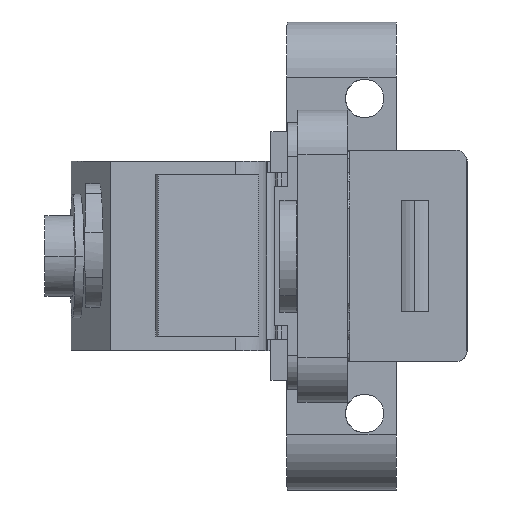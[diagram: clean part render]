
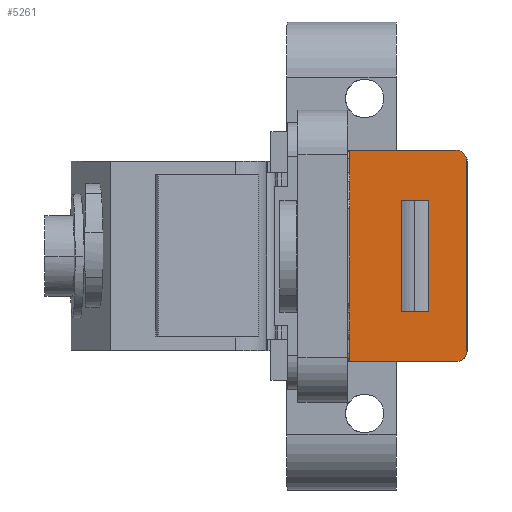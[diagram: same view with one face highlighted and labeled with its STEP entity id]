
A CAD part, left-side view. The second image highlights one B-rep face of the part: STEP entity #5261.
In plain terms, the highlighted planar face has unit normal (-1, 0.003, 0).
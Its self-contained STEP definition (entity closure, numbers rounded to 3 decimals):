
#49 = DIRECTION ( 'NONE',  ( 0., 0., -1. ) ) ;
#61 = CARTESIAN_POINT ( 'NONE',  ( 48.199, -12.419, 9.4 ) ) ;
#263 = VERTEX_POINT ( 'NONE', #7706 ) ;
#266 = DIRECTION ( 'NONE',  ( 0., 0., -1. ) ) ;
#325 = CARTESIAN_POINT ( 'NONE',  ( 48.201, -11.419, -9.4 ) ) ;
#335 = CARTESIAN_POINT ( 'NONE',  ( 48.239, 3.581, -15.9 ) ) ;
#368 = CARTESIAN_POINT ( 'NONE',  ( 48.2, -12.005, -9.4 ) ) ;
#591 = CARTESIAN_POINT ( 'NONE',  ( 48.199, -12.419, -8.4 ) ) ;
#599 = CARTESIAN_POINT ( 'NONE',  ( 48.199, -12.419, -8.986 ) ) ;
#673 = VECTOR ( 'NONE', #5777, 1000. ) ;
#810 = LINE ( 'NONE', #6141, #673 ) ;
#835 = LINE ( 'NONE', #61, #879 ) ;
#879 = VECTOR ( 'NONE', #49, 1000. ) ;
#1021 = VECTOR ( 'NONE', #2657, 1000. ) ;
#1030 = LINE ( 'NONE', #2689, #1021 ) ;
#1072 = VECTOR ( 'NONE', #3340, 1000. ) ;
#1088 = LINE ( 'NONE', #3332, #1072 ) ;
#1130 = VERTEX_POINT ( 'NONE', #4384 ) ;
#1359 = AXIS2_PLACEMENT_3D ( 'NONE', #1542, #2005, #2669 ) ;
#1441 = DIRECTION ( 'NONE',  ( 0., 0., -1. ) ) ;
#1446 = VERTEX_POINT ( 'NONE', #3443 ) ;
#1542 = CARTESIAN_POINT ( 'NONE',  ( 48.199, -12.419, 9.4 ) ) ;
#1776 = FACE_OUTER_BOUND ( 'NONE', #4955, .T. ) ;
#1915 = VECTOR ( 'NONE', #6129, 1000. ) ;
#2005 = DIRECTION ( 'NONE',  ( 1., -0.003, 0. ) ) ;
#2040 = PLANE ( 'NONE',  #1359 ) ;
#2050 =( BOUNDED_CURVE ( )  B_SPLINE_CURVE ( 3, ( #3998, #3977, #3969, #3960 ),
 .UNSPECIFIED., .F., .T. ) 
 B_SPLINE_CURVE_WITH_KNOTS ( ( 4, 4 ),
 ( 0., 0.002 ),
 .UNSPECIFIED. ) 
 CURVE ( )  GEOMETRIC_REPRESENTATION_ITEM ( )  RATIONAL_B_SPLINE_CURVE ( ( 1., 0.805, 0.805, 1. ) ) 
 REPRESENTATION_ITEM ( '' )  );
#2528 = EDGE_CURVE ( 'NONE', #263, #7728, #4688, .T. ) ;
#2625 = CARTESIAN_POINT ( 'NONE',  ( 48.207, -9.006, -4.95 ) ) ;
#2657 = DIRECTION ( 'NONE',  ( 0.003, 1., 0. ) ) ;
#2669 = DIRECTION ( 'NONE',  ( 0., 0., -1. ) ) ;
#2689 = CARTESIAN_POINT ( 'NONE',  ( 48.199, -12.419, -9.4 ) ) ;
#2812 = FACE_BOUND ( 'NONE', #3413, .T. ) ;
#2841 = DIRECTION ( 'NONE',  ( 0., 0., 1. ) ) ;
#3039 = VERTEX_POINT ( 'NONE', #3416 ) ;
#3197 = LINE ( 'NONE', #335, #3204 ) ;
#3204 = VECTOR ( 'NONE', #266, 1000. ) ;
#3332 = CARTESIAN_POINT ( 'NONE',  ( 48.199, -12.419, 9.4 ) ) ;
#3340 = DIRECTION ( 'NONE',  ( -0.003, -1., 0. ) ) ;
#3413 = EDGE_LOOP ( 'NONE', ( #5772, #5614, #5540, #5529 ) ) ;
#3416 = CARTESIAN_POINT ( 'NONE',  ( 48.201, -11.419, 9.4 ) ) ;
#3443 = CARTESIAN_POINT ( 'NONE',  ( 48.199, -12.419, -8.4 ) ) ;
#3740 = EDGE_CURVE ( 'NONE', #4845, #6049, #7524, .T. ) ;
#3960 = CARTESIAN_POINT ( 'NONE',  ( 48.199, -12.419, 8.4 ) ) ;
#3969 = CARTESIAN_POINT ( 'NONE',  ( 48.199, -12.419, 8.986 ) ) ;
#3977 = CARTESIAN_POINT ( 'NONE',  ( 48.2, -12.005, 9.4 ) ) ;
#3998 = CARTESIAN_POINT ( 'NONE',  ( 48.201, -11.419, 9.4 ) ) ;
#4130 = CARTESIAN_POINT ( 'NONE',  ( 48.201, -11.419, -9.4 ) ) ;
#4190 = VECTOR ( 'NONE', #2841, 1000. ) ;
#4384 = CARTESIAN_POINT ( 'NONE',  ( 48.199, -12.419, 8.4 ) ) ;
#4392 = VECTOR ( 'NONE', #1441, 1000. ) ;
#4445 = CARTESIAN_POINT ( 'NONE',  ( 48.239, 3.581, -9.4 ) ) ;
#4555 = VERTEX_POINT ( 'NONE', #4130 ) ;
#4688 = LINE ( 'NONE', #5828, #4392 ) ;
#4792 = EDGE_CURVE ( 'NONE', #7228, #5769, #3197, .T. ) ;
#4845 = VERTEX_POINT ( 'NONE', #2625 ) ;
#4955 = EDGE_LOOP ( 'NONE', ( #6650, #6564, #6206, #6042, #5863, #5783 ) ) ;
#5162 =( BOUNDED_CURVE ( )  B_SPLINE_CURVE ( 3, ( #591, #599, #368, #325 ),
 .UNSPECIFIED., .F., .T. ) 
 B_SPLINE_CURVE_WITH_KNOTS ( ( 4, 4 ),
 ( 0., 0.002 ),
 .UNSPECIFIED. ) 
 CURVE ( )  GEOMETRIC_REPRESENTATION_ITEM ( )  RATIONAL_B_SPLINE_CURVE ( ( 1., 0.805, 0.805, 1. ) ) 
 REPRESENTATION_ITEM ( '' )  );
#5261 = ADVANCED_FACE ( 'NONE', ( #1776, #2812 ), #2040, .F. ) ;
#5529 = ORIENTED_EDGE ( 'NONE', *, *, #2528, .F. ) ;
#5540 = ORIENTED_EDGE ( 'NONE', *, *, #6505, .F. ) ;
#5614 = ORIENTED_EDGE ( 'NONE', *, *, #3740, .F. ) ;
#5651 = CARTESIAN_POINT ( 'NONE',  ( 48.213, -6.631, -4.95 ) ) ;
#5769 = VERTEX_POINT ( 'NONE', #4445 ) ;
#5772 = ORIENTED_EDGE ( 'NONE', *, *, #7704, .F. ) ;
#5777 = DIRECTION ( 'NONE',  ( 0.003, 1., 0. ) ) ;
#5783 = ORIENTED_EDGE ( 'NONE', *, *, #7599, .F. ) ;
#5828 = CARTESIAN_POINT ( 'NONE',  ( 48.213, -6.631, 9.4 ) ) ;
#5863 = ORIENTED_EDGE ( 'NONE', *, *, #7580, .F. ) ;
#5915 = CARTESIAN_POINT ( 'NONE',  ( 48.239, 3.581, 9.4 ) ) ;
#6042 = ORIENTED_EDGE ( 'NONE', *, *, #7412, .F. ) ;
#6049 = VERTEX_POINT ( 'NONE', #7517 ) ;
#6083 = CARTESIAN_POINT ( 'NONE',  ( 48.199, -12.419, -4.95 ) ) ;
#6129 = DIRECTION ( 'NONE',  ( -0.003, -1., 0. ) ) ;
#6141 = CARTESIAN_POINT ( 'NONE',  ( 48.199, -12.419, 4.95 ) ) ;
#6164 = LINE ( 'NONE', #6083, #1915 ) ;
#6206 = ORIENTED_EDGE ( 'NONE', *, *, #4792, .T. ) ;
#6324 = CARTESIAN_POINT ( 'NONE',  ( 48.207, -9.006, 9.4 ) ) ;
#6505 = EDGE_CURVE ( 'NONE', #7728, #4845, #6164, .T. ) ;
#6564 = ORIENTED_EDGE ( 'NONE', *, *, #7365, .F. ) ;
#6650 = ORIENTED_EDGE ( 'NONE', *, *, #7307, .F. ) ;
#7228 = VERTEX_POINT ( 'NONE', #5915 ) ;
#7307 = EDGE_CURVE ( 'NONE', #3039, #1130, #2050, .T. ) ;
#7365 = EDGE_CURVE ( 'NONE', #7228, #3039, #1088, .T. ) ;
#7412 = EDGE_CURVE ( 'NONE', #4555, #5769, #1030, .T. ) ;
#7517 = CARTESIAN_POINT ( 'NONE',  ( 48.207, -9.006, 4.95 ) ) ;
#7524 = LINE ( 'NONE', #6324, #4190 ) ;
#7580 = EDGE_CURVE ( 'NONE', #1446, #4555, #5162, .T. ) ;
#7599 = EDGE_CURVE ( 'NONE', #1130, #1446, #835, .T. ) ;
#7704 = EDGE_CURVE ( 'NONE', #6049, #263, #810, .T. ) ;
#7706 = CARTESIAN_POINT ( 'NONE',  ( 48.213, -6.631, 4.95 ) ) ;
#7728 = VERTEX_POINT ( 'NONE', #5651 ) ;
